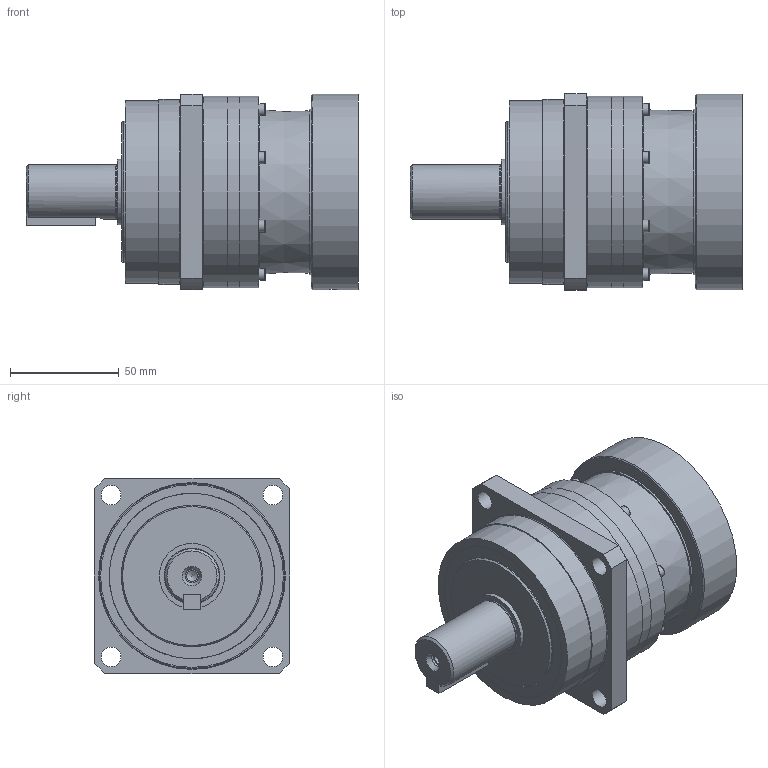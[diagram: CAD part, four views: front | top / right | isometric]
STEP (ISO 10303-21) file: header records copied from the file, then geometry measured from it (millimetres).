
FILE_DESCRIPTION(/* description */ ('ANFX-P120W-2-H25G'),/* implementation_level */ '2;1');
FILE_NAME(/* name */ 'C:\Users\ADMINI~1\AppData\Local\Temp\MM581750_ANFX-P120W-2-H25G.stp',/* time_stamp */ '2018-06-20T10:01:49+02:00',/* author */ ('Max'),/* organization */ (''),/* preprocessor_version */ 'ST-DEVELOPER v17',/* originating_system */ 'Autodesk Inventor 2018',/* authorisation */ '');
FILE_SCHEMA (('AUTOMOTIVE_DESIGN { 1 0 10303 214 3 1 1 }'));
Length unit declared in the file: millimetre
Products named in the file (22): MM581710; MMBG0004078; MMCL445LG; MMCM226LG; MAX4840G; MAW8381G; M202625; MMBG0004105; MMCH509LG; M204639; M204639-1; M204639-2; M204639-3; M204639-4; 212006; M530A30508---G; MMAP6516G; 202471; MMAP1654G; 137711; 200458; MAW8386G
Assembly tree (43 placements, depth 4):
  MM581710
    MMBG0004078
      MMCL445LG
      MMCM226LG
      MAX4840G
      MAW8381G
      M202625
    MMBG0004105
      MMCH509LG
      M204639
        M204639-1
        M204639-2
        M204639-3  x2
        M204639-4  x12
      212006  x8
      M530A30508---G
      MMAP6516G
      202471
      MMAP1654G
    137711
    200458  x4
    MAW8386G
Bounding box: 152.5 x 90 x 90 mm (x, y, z)
Volume: 427988.1 mm3; surface area: 166269.1 mm2
Topology: 82 solids, 82 shells, 566 faces, 1583 edges, 1142 vertices
Faces by surface type: plane 225, cylinder 164, cone 73, sphere 53, torus 51
Full cylindrical faces by diameter (mm): 2 x1, 2.459 x12, 3 x8, 3.242 x1, 3.4 x8, 3.5 x8, 4 x1, 4.134 x12, 4.5 x1, 4.917 x1, 5 x4, 5.5 x12, 6.2 x1, 7 x1, 8.5 x4, 9 x4, 9.8 x1, 10 x5, 10.2 x1, 10.4 x1, 12 x1, 14 x1, 14.5 x1, 24 x2, 25 x1, 28 x1, 28.6 x1, 29.4 x1, 29.6 x1, 30 x3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
Entity records: 14144 total; most frequent: DIRECTION 2575, CARTESIAN_POINT 2460, ORIENTED_EDGE 2006, AXIS2_PLACEMENT_3D 1148, EDGE_CURVE 1003, VERTEX_POINT 808, CIRCLE 691, EDGE_LOOP 553
